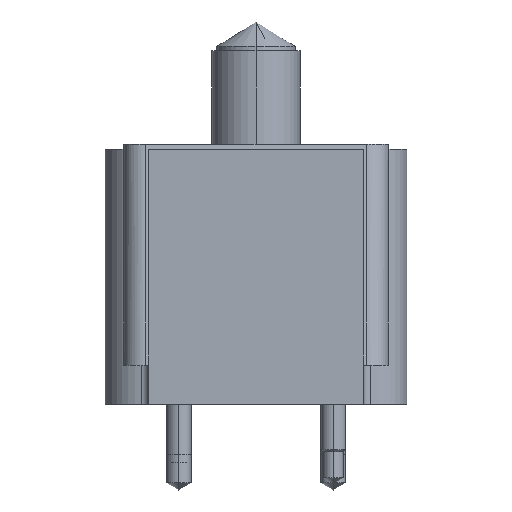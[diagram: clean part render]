
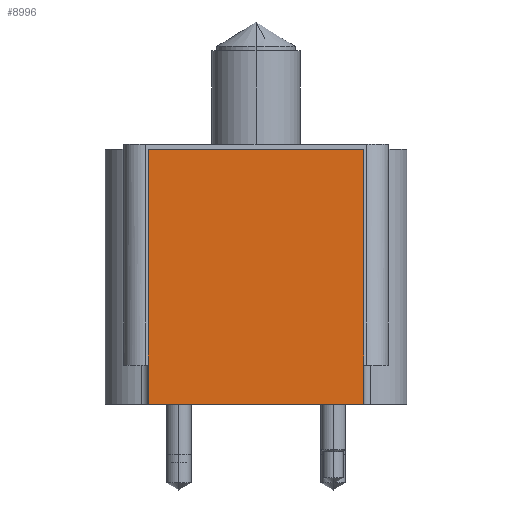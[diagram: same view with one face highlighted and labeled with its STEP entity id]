
A CAD part, left-side view. The second image highlights one B-rep face of the part: STEP entity #8996.
In plain terms, the highlighted planar face has unit normal (-1, 0, 0).
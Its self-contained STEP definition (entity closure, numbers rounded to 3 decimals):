
#8822=CARTESIAN_POINT('',(-84.201,34.988,82.55));
#8823=VERTEX_POINT('',#8822);
#8830=CARTESIAN_POINT('',(-84.201,-34.988,82.55));
#8831=VERTEX_POINT('',#8830);
#8832=CARTESIAN_POINT('',(-84.201,0.0,82.55));
#8833=DIRECTION('',(0.0,1.0,0.0));
#8834=VECTOR('',#8833,1.0);
#8835=LINE('',#8832,#8834);
#8836=EDGE_CURVE('',#8831,#8823,#8835,.T.);
#8966=CARTESIAN_POINT('',(-84.201,34.988,0.0));
#8967=VERTEX_POINT('',#8966);
#8968=CARTESIAN_POINT('',(-84.201,34.988,0.0));
#8969=DIRECTION('',(0.0,0.0,1.0));
#8970=VECTOR('',#8969,1.0);
#8971=LINE('',#8968,#8970);
#8972=EDGE_CURVE('',#8967,#8823,#8971,.T.);
#8973=ORIENTED_EDGE('',*,*,#8972,.F.);
#8974=CARTESIAN_POINT('',(-84.201,-34.988,0.0));
#8975=VERTEX_POINT('',#8974);
#8976=CARTESIAN_POINT('',(-84.201,0.0,0.0));
#8977=DIRECTION('',(0.0,-1.0,0.0));
#8978=VECTOR('',#8977,1.0);
#8979=LINE('',#8976,#8978);
#8980=EDGE_CURVE('',#8967,#8975,#8979,.T.);
#8981=ORIENTED_EDGE('',*,*,#8980,.T.);
#8982=CARTESIAN_POINT('',(-84.201,-34.988,0.0));
#8983=DIRECTION('',(0.0,0.0,-1.0));
#8984=VECTOR('',#8983,1.0);
#8985=LINE('',#8982,#8984);
#8986=EDGE_CURVE('',#8831,#8975,#8985,.T.);
#8987=ORIENTED_EDGE('',*,*,#8986,.F.);
#8988=ORIENTED_EDGE('',*,*,#8836,.T.);
#8989=EDGE_LOOP('',(#8973,#8981,#8987,#8988));
#8990=FACE_OUTER_BOUND('',#8989,.T.);
#8991=CARTESIAN_POINT('',(-84.201,0.0,0.0));
#8992=DIRECTION('',(-1.0,0.0,-0.0));
#8993=DIRECTION('',(-0.0,0.0,1.0));
#8994=AXIS2_PLACEMENT_3D('',#8991,#8992,#8993);
#8995=PLANE('',#8994);
#8996=ADVANCED_FACE('',(#8990),#8995,.T.);
